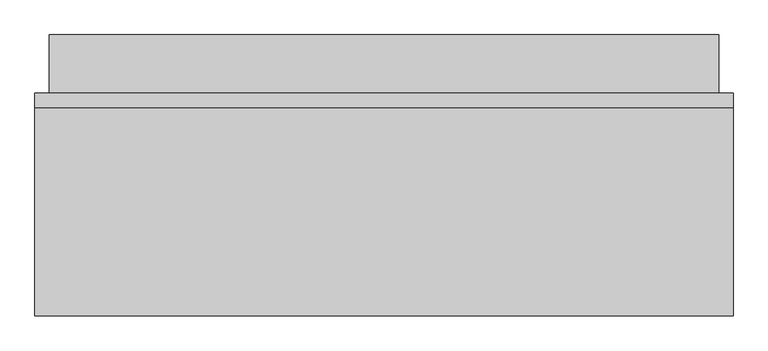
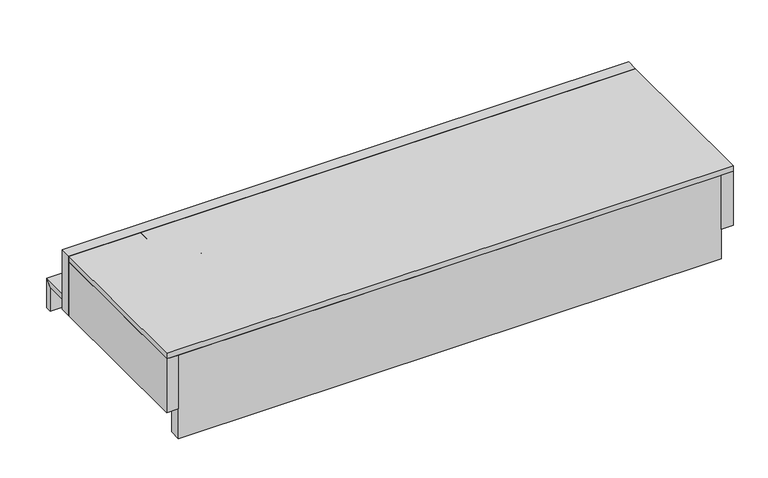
"""IFC4 building model written with IfcOpenShell, lengths in millimetres: proxy geometry, FOUNDATION^OPEN OFFICE 2_12x29x72 WIRE WALL LT-PARTS SOLID."""

from ifc_helpers import new_model, si_unit, frame, origin, origin_with_axes, place, context, project, spatial, polyline, outline, extrude, source, transform, mapped, element, save


def generic_models_0e15aacb(model_context):
    return source(origin(), model_context, "Body", "SweptSolid", [
        extrude(outline(polyline([(0.0, 546.1), (0.0, 0.0), (-38.1, 0.0), (-38.1, 546.1), (0.0, 546.1)])), frame((0.0, 0.0, 101.6), z_axis=(0.0, 0.0, 1.0), x_axis=(1.0, 0.0, 0.0)), (0.0, 0.0, 1.0), 184.15),
        extrude(outline(polyline([(546.1, 101.6), (736.6, 101.6), (717.55, 82.55), (546.1, 82.55), (546.1, 101.6)])), frame((0.0, 0.0, 0.0), z_axis=(1.0, 0.0, 0.0), x_axis=(0.0, 1.0, 0.0)), (0.0, 0.0, 1.0), 1752.6),
        extrude(outline(polyline([(1752.6, 0.0), (1752.6, 546.1), (1790.7, 546.1), (1790.7, 0.0), (1752.6, 0.0)])), frame((0.0, 0.0, 101.6), z_axis=(0.0, 0.0, 1.0), x_axis=(1.0, 0.0, 0.0)), (0.0, 0.0, 1.0), 184.15),
        extrude(outline(polyline([(1790.7, 546.1), (-38.1, 546.1), (-38.1, 584.2), (1790.7, 584.2), (1790.7, 546.1)])), frame((0.0, 0.0, 101.6), z_axis=(0.0, 0.0, 1.0), x_axis=(1.0, 0.0, 0.0)), (0.0, 0.0, 1.0), 203.2),
        extrude(outline(polyline([(717.55, 82.55), (736.6, 101.6), (736.6, 0.0), (717.55, 0.0), (717.55, 82.55)])), frame((0.0, 0.0, 0.0), z_axis=(1.0, 0.0, 0.0), x_axis=(0.0, 1.0, 0.0)), (0.0, 0.0, 1.0), 1752.6),
        extrude(outline(polyline([(1790.7, 0.0), (-38.1, 0.0), (-38.1, 546.1), (1790.7, 546.1), (1790.7, 0.0)])), frame((0.0, 0.0, 285.75), z_axis=(0.0, 0.0, 1.0), x_axis=(1.0, 0.0, 0.0)), (0.0, 0.0, 1.0), 19.05),
        extrude(outline(polyline([(1388.26875, 542.925), (1388.26875, 373.85625), (192.88125, 373.85625), (192.88125, 542.925), (1388.26875, 542.925)])), frame((0.0, 0.0, 285.75), z_axis=(0.0, 0.0, 1.0), x_axis=(1.0, 0.0, 0.0)), (0.0, 0.0, 1.0), 19.05),
        extrude(outline(polyline([(0.0, 0.0), (0.0, 38.1), (1752.6, 38.1), (1752.6, 0.0), (0.0, 0.0)])), origin_with_axes(), (0.0, 0.0, 1.0), 285.75),
    ])


if __name__ == "__main__":
    model = new_model("IFC4")
    model_context = context("Model", 3, world=origin())
    ifc_project = project(units=[si_unit("LENGTHUNIT", "METRE", prefix="MILLI")], contexts=[model_context])
    site = spatial("IfcSite", under=ifc_project)
    building = spatial("IfcBuilding", under=site)
    placement = place(None, origin())
    generic_models_shape = generic_models_0e15aacb(model_context)
    element("IfcBuildingElementProxy", 1, Name="FOUNDATION^OPEN OFFICE 2_12x29x72 WIRE WALL LT-PARTS SOLID", ObjectType="FOUNDATION^OPEN OFFICE 2_12x29x72 WIRE WALL LT-PARTS SOLID", at=placement, inside=building, context=model_context, shape_type="MappedRepresentation", body=[
        mapped(generic_models_shape, transform((0.0, 0.0, 0.0), x_axis=(1.0, 0.0, 0.0), y_axis=(0.0, 1.0, 0.0), z_axis=(0.0, 0.0, 1.0))),
    ])
    save(model, "model.ifc")
